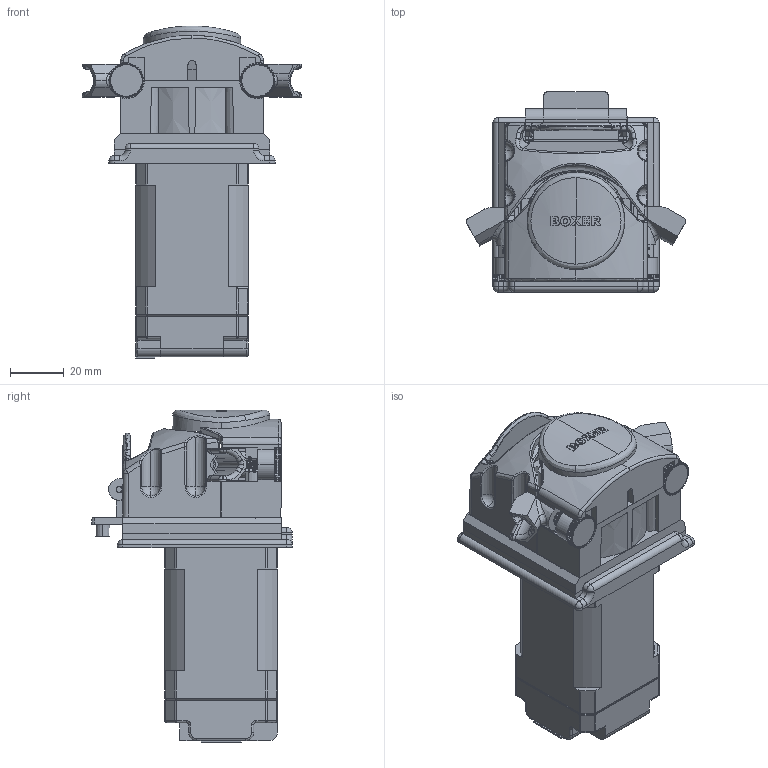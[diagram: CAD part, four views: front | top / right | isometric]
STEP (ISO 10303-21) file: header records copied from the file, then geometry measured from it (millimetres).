
FILE_DESCRIPTION (( 'STEP AP203' ), '1' );
FILE_NAME ('15QQ +2A Driver.STEP', '2017-02-10T17:05:58', ( '' ), ( '' ), 'SwSTEP 2.0', 'SolidWorks 2015', '' );
FILE_SCHEMA (( 'CONFIG_CONTROL_DESIGN' ));
Length unit declared in the file: millimetre
Products named in the file (1): 15QQ +2A Driver
Bounding box: 81.81 x 74.75 x 123.98 mm (x, y, z)
Surface area: 52734.5 mm2 (no closed solid volume)
Topology: 0 solids, 27 shells, 1143 faces, 4517 edges, 3220 vertices
Faces by surface type: plane 366, cylinder 317, bspline 278, cone 108, torus 44, sphere 30
Entity records: 65755 total; most frequent: CARTESIAN_POINT 31963, ORIENTED_EDGE 7191, DIRECTION 6108, EDGE_CURVE 4503, VERTEX_POINT 3220, AXIS2_PLACEMENT_3D 2115, VECTOR 1878, LINE 1878
